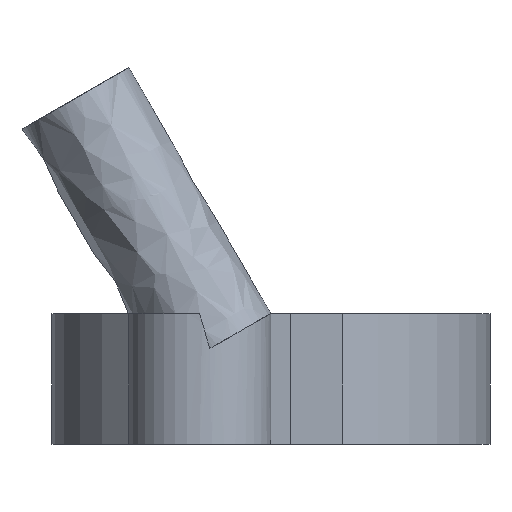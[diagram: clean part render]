
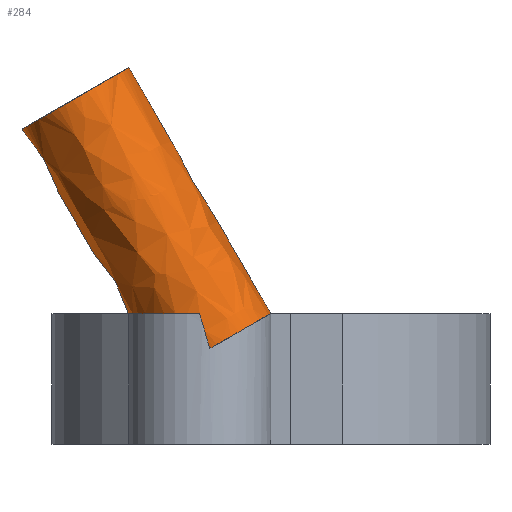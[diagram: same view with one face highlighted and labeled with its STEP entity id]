
A CAD part, left-side view. The second image highlights one B-rep face of the part: STEP entity #284.
In plain terms, the highlighted free-form (B-spline) face has degree [1, 2] with [2, 9] control points.
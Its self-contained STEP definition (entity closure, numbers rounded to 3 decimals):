
#15=B_SPLINE_CURVE_WITH_KNOTS('',1,(#488,#489),.UNSPECIFIED.,.F.,.F.,(2,
2),(-3.486,-0.001),.UNSPECIFIED.);
#16=(
BOUNDED_SURFACE()
B_SPLINE_SURFACE(1,2,((#467,#468,#469,#470,#471,#472,#473,#474,#475),(#476,
#477,#478,#479,#480,#481,#482,#483,#484)),.UNSPECIFIED.,.F.,.T.,.F.)
B_SPLINE_SURFACE_WITH_KNOTS((2,2),(3,2,2,2,3),(-0.495,3.486),
(-3.142,-1.571,0.,1.571,3.142),
 .UNSPECIFIED.)
GEOMETRIC_REPRESENTATION_ITEM()
RATIONAL_B_SPLINE_SURFACE(((1.,0.707,1.,0.707,1.,
0.707,1.,0.707,1.),(1.,0.707,1.,0.707,
1.,0.707,1.,0.707,1.)))
REPRESENTATION_ITEM('')
SURFACE()
);
#17=ELLIPSE('',#315,5.45,4.72);
#19=ELLIPSE('',#318,5.45,4.72);
#20=ELLIPSE('',#319,5.45,4.72);
#21=ELLIPSE('',#322,19.65,5.45);
#42=FACE_OUTER_BOUND('',#60,.T.);
#60=EDGE_LOOP('',(#215,#216,#217,#218,#219,#220,#221,#222,#223));
#116=CIRCLE('',#320,5.45);
#117=CIRCLE('',#321,5.45);
#118=CIRCLE('',#323,5.45);
#137=VERTEX_POINT('',#459);
#138=VERTEX_POINT('',#460);
#139=VERTEX_POINT('',#464);
#140=VERTEX_POINT('',#485);
#141=VERTEX_POINT('',#487);
#142=VERTEX_POINT('',#490);
#143=VERTEX_POINT('',#492);
#167=EDGE_CURVE('',#137,#138,#17,.T.);
#169=EDGE_CURVE('',#138,#139,#19,.T.);
#170=EDGE_CURVE('',#140,#140,#20,.T.);
#171=EDGE_CURVE('',#140,#141,#15,.T.);
#172=EDGE_CURVE('',#142,#141,#116,.T.);
#173=EDGE_CURVE('',#142,#143,#117,.T.);
#174=EDGE_CURVE('',#139,#143,#21,.T.);
#175=EDGE_CURVE('',#141,#137,#118,.T.);
#215=ORIENTED_EDGE('',*,*,#170,.F.);
#216=ORIENTED_EDGE('',*,*,#171,.T.);
#217=ORIENTED_EDGE('',*,*,#172,.F.);
#218=ORIENTED_EDGE('',*,*,#173,.T.);
#219=ORIENTED_EDGE('',*,*,#174,.F.);
#220=ORIENTED_EDGE('',*,*,#169,.F.);
#221=ORIENTED_EDGE('',*,*,#167,.F.);
#222=ORIENTED_EDGE('',*,*,#175,.F.);
#223=ORIENTED_EDGE('',*,*,#171,.F.);
#284=ADVANCED_FACE('',(#42),#16,.F.);
#315=AXIS2_PLACEMENT_3D('',#462,#369,#370);
#318=AXIS2_PLACEMENT_3D('',#466,#375,#376);
#319=AXIS2_PLACEMENT_3D('',#486,#377,#378);
#320=AXIS2_PLACEMENT_3D('',#491,#379,#380);
#321=AXIS2_PLACEMENT_3D('',#493,#381,#382);
#322=AXIS2_PLACEMENT_3D('',#494,#383,#384);
#323=AXIS2_PLACEMENT_3D('',#495,#385,#386);
#369=DIRECTION('center_axis',(0.,-0.5,-0.866));
#370=DIRECTION('ref_axis',(-1.,0.,0.));
#375=DIRECTION('center_axis',(0.,-0.5,-0.866));
#376=DIRECTION('ref_axis',(-1.,0.,0.));
#377=DIRECTION('center_axis',(0.,0.5,0.866));
#378=DIRECTION('ref_axis',(-1.,0.,0.));
#379=DIRECTION('center_axis',(0.,0.,-1.));
#380=DIRECTION('ref_axis',(-1.,0.,0.));
#381=DIRECTION('center_axis',(0.,0.,1.));
#382=DIRECTION('ref_axis',(1.,0.,0.));
#383=DIRECTION('center_axis',(0.,0.961,-0.277));
#384=DIRECTION('ref_axis',(0.,0.277,0.961));
#385=DIRECTION('center_axis',(0.,0.,-1.));
#386=DIRECTION('ref_axis',(-1.,0.,0.));
#459=CARTESIAN_POINT('',(0.616,-5.415,10.));
#460=CARTESIAN_POINT('',(-0.616,-5.415,10.));
#462=CARTESIAN_POINT('Origin',(0.,-1.354,7.655));
#464=CARTESIAN_POINT('',(-5.395,-0.774,7.32));
#466=CARTESIAN_POINT('Origin',(0.,-1.354,7.655));
#467=CARTESIAN_POINT('Ctrl Pts',(5.45,-1.354,7.655));
#468=CARTESIAN_POINT('Ctrl Pts',(5.45,2.734,5.295));
#469=CARTESIAN_POINT('Ctrl Pts',(0.,2.734,5.295));
#470=CARTESIAN_POINT('Ctrl Pts',(-5.45,2.734,5.295));
#471=CARTESIAN_POINT('Ctrl Pts',(-5.45,-1.354,7.655));
#472=CARTESIAN_POINT('Ctrl Pts',(-5.45,-5.441,10.015));
#473=CARTESIAN_POINT('Ctrl Pts',(0.,-5.441,10.015));
#474=CARTESIAN_POINT('Ctrl Pts',(5.45,-5.441,10.015));
#475=CARTESIAN_POINT('Ctrl Pts',(5.45,-1.354,7.655));
#476=CARTESIAN_POINT('Ctrl Pts',(5.45,9.496,26.448));
#477=CARTESIAN_POINT('Ctrl Pts',(5.45,13.584,24.088));
#478=CARTESIAN_POINT('Ctrl Pts',(0.,13.584,
24.088));
#479=CARTESIAN_POINT('Ctrl Pts',(-5.45,13.584,24.088));
#480=CARTESIAN_POINT('Ctrl Pts',(-5.45,9.496,26.448));
#481=CARTESIAN_POINT('Ctrl Pts',(-5.45,5.409,28.808));
#482=CARTESIAN_POINT('Ctrl Pts',(0.,5.409,28.808));
#483=CARTESIAN_POINT('Ctrl Pts',(5.45,5.409,28.808));
#484=CARTESIAN_POINT('Ctrl Pts',(5.45,9.496,26.448));
#485=CARTESIAN_POINT('',(5.45,9.496,26.448));
#486=CARTESIAN_POINT('Origin',(0.,9.496,26.448));
#487=CARTESIAN_POINT('',(5.45,0.,10.));
#488=CARTESIAN_POINT('Ctrl Pts',(5.45,9.496,26.448));
#489=CARTESIAN_POINT('Ctrl Pts',(5.45,0.,10.));
#490=CARTESIAN_POINT('',(0.,5.45,10.));
#491=CARTESIAN_POINT('Origin',(0.,0.,10.));
#492=CARTESIAN_POINT('',(-5.45,0.,10.));
#493=CARTESIAN_POINT('Origin',(0.,0.,10.));
#494=CARTESIAN_POINT('Origin',(0.,0.,10.));
#495=CARTESIAN_POINT('Origin',(0.,0.,10.));
